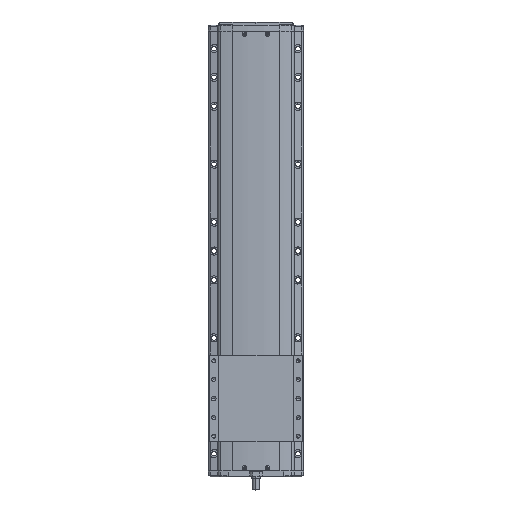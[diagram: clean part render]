
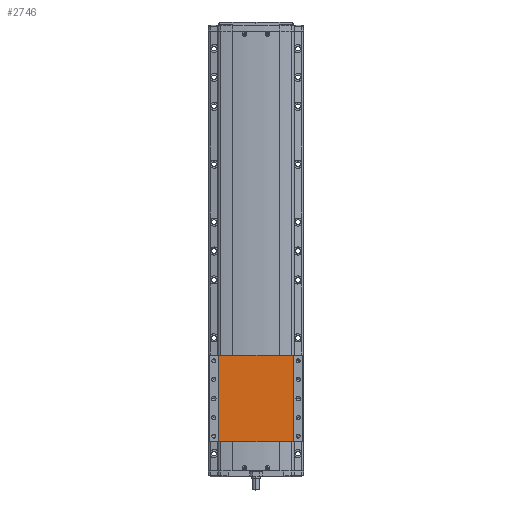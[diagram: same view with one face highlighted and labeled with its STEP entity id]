
A CAD part, top view. The second image highlights one B-rep face of the part: STEP entity #2746.
In plain terms, the highlighted planar face has unit normal (0, 0, 1).
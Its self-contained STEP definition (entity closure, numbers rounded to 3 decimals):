
#2746=ADVANCED_FACE('',(#6974),#6975,.F.);
#6974=FACE_OUTER_BOUND('',#13370,.T.);
#6975=PLANE('',#13371);
#13370=EDGE_LOOP('',(#22882,#22883,#22884,#22885));
#13371=AXIS2_PLACEMENT_3D('',#22886,#22887,#22888);
#22882=ORIENTED_EDGE('',*,*,#39327,.F.);
#22883=ORIENTED_EDGE('',*,*,#39182,.F.);
#22884=ORIENTED_EDGE('',*,*,#39328,.F.);
#22885=ORIENTED_EDGE('',*,*,#39329,.T.);
#22886=CARTESIAN_POINT('',(-600.,122.222,51.5));
#22887=DIRECTION('',(0.,0.,-1.0));
#22888=DIRECTION('',(-1.0,0.,0.));
#39182=EDGE_CURVE('',#47294,#47290,#47296,.T.);
#39327=EDGE_CURVE('',#47290,#47543,#47544,.T.);
#39328=EDGE_CURVE('',#47545,#47294,#47546,.T.);
#39329=EDGE_CURVE('',#47545,#47543,#47547,.T.);
#47290=VERTEX_POINT('',#59017);
#47294=VERTEX_POINT('',#59022);
#47296=LINE('',#59024,#59025);
#47543=VERTEX_POINT('',#59374);
#47544=LINE('',#59375,#59376);
#47545=VERTEX_POINT('',#59377);
#47546=LINE('',#59378,#59379);
#47547=LINE('',#59380,#59381);
#59017=CARTESIAN_POINT('',(-664.376,272.222,51.5));
#59022=CARTESIAN_POINT('',(-664.376,122.222,51.5));
#59024=CARTESIAN_POINT('',(-664.376,122.222,51.5));
#59025=VECTOR('',#72103,10.0);
#59374=CARTESIAN_POINT('',(-535.624,272.222,51.5));
#59375=CARTESIAN_POINT('',(-535.624,272.222,51.5));
#59376=VECTOR('',#72271,10.0);
#59377=CARTESIAN_POINT('',(-535.624,122.222,51.5));
#59378=CARTESIAN_POINT('',(-535.624,122.222,51.5));
#59379=VECTOR('',#72272,10.0);
#59380=CARTESIAN_POINT('',(-535.624,122.222,51.5));
#59381=VECTOR('',#72273,10.0);
#72103=DIRECTION('',(0.,1.0,0.));
#72271=DIRECTION('',(1.0,0.,0.));
#72272=DIRECTION('',(-1.0,0.,0.));
#72273=DIRECTION('',(0.,1.0,0.));
